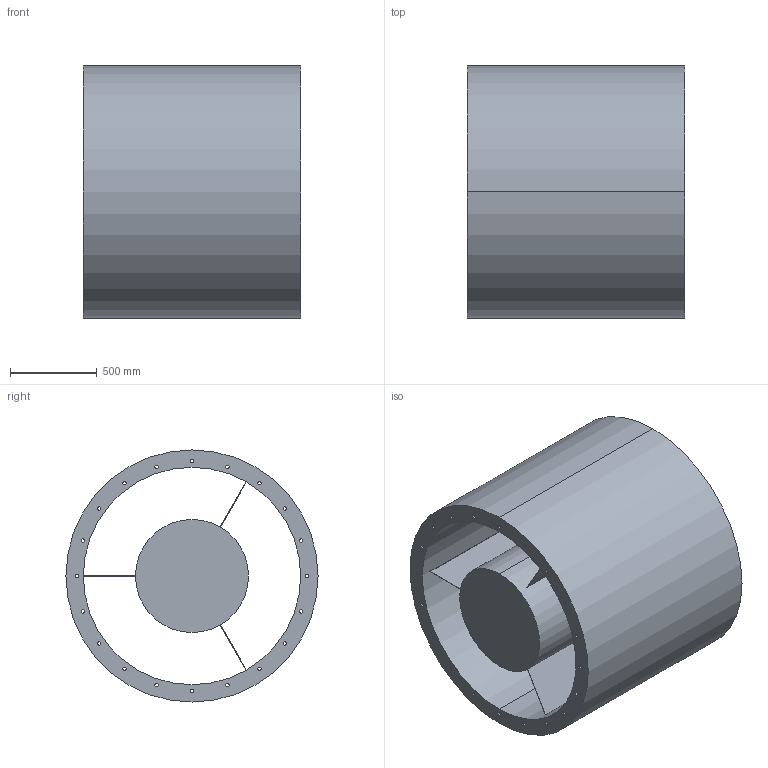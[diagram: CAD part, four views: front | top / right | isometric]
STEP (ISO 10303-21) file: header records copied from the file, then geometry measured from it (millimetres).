
FILE_DESCRIPTION(('STEP AP214'),'1');
FILE_NAME('accessory_5211816100.stp','2017-10-09T11:38:23',('TraceParts'),('TraceParts S.A.'),'Spatial InterOp 3D',' ',' ');
FILE_SCHEMA(('automotive_design'));
Length unit declared in the file: millimetre
Products named in the file (1): accessory_5211816100
Bounding box: 1250 x 1450 x 1450 mm (x, y, z)
Volume: 881761211.1 mm3; surface area: 17199679.8 mm2
Topology: 1 solids, 1 shells, 64 faces, 179 edges, 119 vertices
Faces by surface type: cylinder 46, plane 16, torus 2
Entity records: 2744 total; most frequent: DIRECTION 418, CARTESIAN_POINT 363, ORIENTED_EDGE 358, EDGE_CURVE 179, AXIS2_PLACEMENT_3D 174, VERTEX_POINT 119, EDGE_LOOP 112, CIRCLE 109
